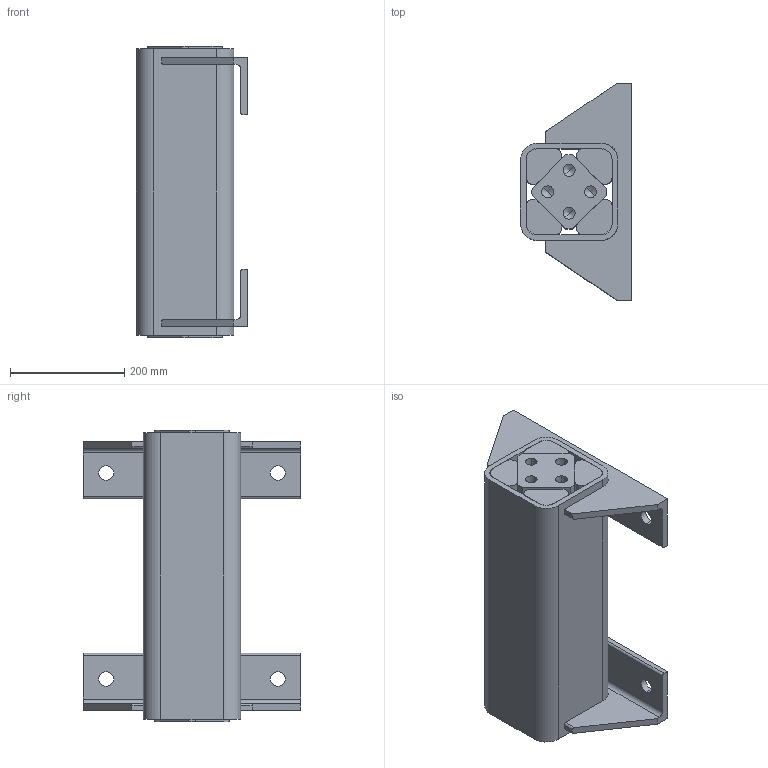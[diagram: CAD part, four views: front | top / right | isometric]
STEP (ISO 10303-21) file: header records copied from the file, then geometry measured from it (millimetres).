
FILE_DESCRIPTION((''),'2;1');
FILE_NAME('D:\ROSTA\Gummifederelemente\3D\DW-A100x500_01101012.stp','2005-02-11T07:30:25',('Administrator'),(''),'Autodesk Inventor 8','Autodesk Inventor 8','');
FILE_SCHEMA(('AUTOMOTIVE_DESIGN { 1 0 10303 214 1 1 1 1 }'));
Length unit declared in the file: millimetre
Products named in the file (5): Baugruppe1; 2.4.4814-011; 2.4.4814-012; 2.4.4814-014; 2.4.4814-013
Assembly tree (8 placements, depth 2):
  Baugruppe1
    2.4.4814-011
    2.4.4814-012
    2.4.4814-014  x4
    2.4.4814-013  x2
Bounding box: 194 x 380 x 510 mm (x, y, z)
Volume: 14711407.9 mm3; surface area: 1539548.5 mm2
Topology: 8 solids, 8 shells, 140 faces, 356 edges, 224 vertices
Faces by surface type: plane 64, cylinder 44, bspline 32
Entity records: 3272 total; most frequent: CARTESIAN_POINT 1013, DIRECTION 448, ORIENTED_EDGE 440, EDGE_CURVE 220, AXIS2_PLACEMENT_3D 155, VERTEX_POINT 144, VECTOR 138, LINE 138
